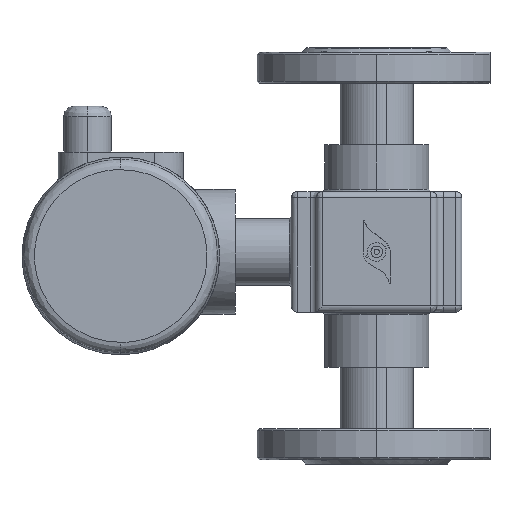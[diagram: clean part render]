
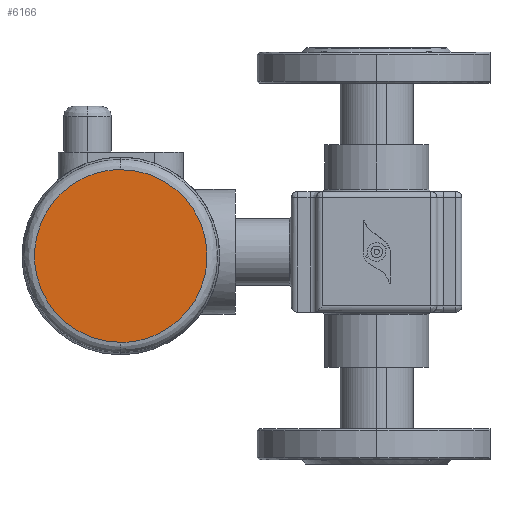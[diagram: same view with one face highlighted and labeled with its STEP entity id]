
A CAD part, left-side view. The second image highlights one B-rep face of the part: STEP entity #6166.
In plain terms, the highlighted planar face has unit normal (-1, 0, 0).
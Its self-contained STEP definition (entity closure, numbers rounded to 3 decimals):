
#34 = CARTESIAN_POINT ( 'NONE',  ( -62., 123., -126.5 ) ) ;
#289 = EDGE_LOOP ( 'NONE', ( #2124, #2966 ) ) ;
#804 = CARTESIAN_POINT ( 'NONE',  ( -62., 123., -43.5 ) ) ;
#1390 = CARTESIAN_POINT ( 'NONE',  ( -62., 40., -126.5 ) ) ;
#1642 = FACE_OUTER_BOUND ( 'NONE', #289, .T. ) ;
#1769 = CARTESIAN_POINT ( 'NONE',  ( -62., 123., -43.5 ) ) ;
#2124 = ORIENTED_EDGE ( 'NONE', *, *, #2536, .F. ) ;
#2536 = EDGE_CURVE ( 'NONE', #7060, #5860, #9108, .T. ) ;
#2966 = ORIENTED_EDGE ( 'NONE', *, *, #4692, .F. ) ;
#3065 = DIRECTION ( 'NONE',  ( 1., 0., 0. ) ) ;
#3149 = CARTESIAN_POINT ( 'NONE',  ( -62., 206., -126.5 ) ) ;
#3384 = CARTESIAN_POINT ( 'NONE',  ( -62., 123., -126.5 ) ) ;
#4692 = EDGE_CURVE ( 'NONE', #5860, #7060, #6129, .T. ) ;
#5860 = VERTEX_POINT ( 'NONE', #8875 ) ;
#6005 = DIRECTION ( 'NONE',  ( 0., 1., 0. ) ) ;
#6129 =( BOUNDED_CURVE ( )  B_SPLINE_CURVE ( 3, ( #804, #6687, #1390, #34 ),
 .UNSPECIFIED., .F., .F. ) 
 B_SPLINE_CURVE_WITH_KNOTS ( ( 4, 4 ),
 ( 0., 1. ),
 .UNSPECIFIED. ) 
 CURVE ( )  GEOMETRIC_REPRESENTATION_ITEM ( )  RATIONAL_B_SPLINE_CURVE ( ( 1., 0.333, 0.333, 1. ) ) 
 REPRESENTATION_ITEM ( '' )  );
#6166 = ADVANCED_FACE ( 'NONE', ( #1642 ), #7458, .F. ) ;
#6687 = CARTESIAN_POINT ( 'NONE',  ( -62., 40., -43.5 ) ) ;
#6738 = CARTESIAN_POINT ( 'NONE',  ( -62., 123., -131.5 ) ) ;
#6966 = CARTESIAN_POINT ( 'NONE',  ( -62., 206., -43.5 ) ) ;
#7060 = VERTEX_POINT ( 'NONE', #3384 ) ;
#7458 = PLANE ( 'NONE',  #8390 ) ;
#8228 = CARTESIAN_POINT ( 'NONE',  ( -62., 123., -126.5 ) ) ;
#8390 = AXIS2_PLACEMENT_3D ( 'NONE', #6738, #3065, #6005 ) ;
#8875 = CARTESIAN_POINT ( 'NONE',  ( -62., 123., -43.5 ) ) ;
#9108 =( BOUNDED_CURVE ( )  B_SPLINE_CURVE ( 3, ( #8228, #3149, #6966, #1769 ),
 .UNSPECIFIED., .F., .F. ) 
 B_SPLINE_CURVE_WITH_KNOTS ( ( 4, 4 ),
 ( 0., 1. ),
 .UNSPECIFIED. ) 
 CURVE ( )  GEOMETRIC_REPRESENTATION_ITEM ( )  RATIONAL_B_SPLINE_CURVE ( ( 1., 0.333, 0.333, 1. ) ) 
 REPRESENTATION_ITEM ( '' )  );
